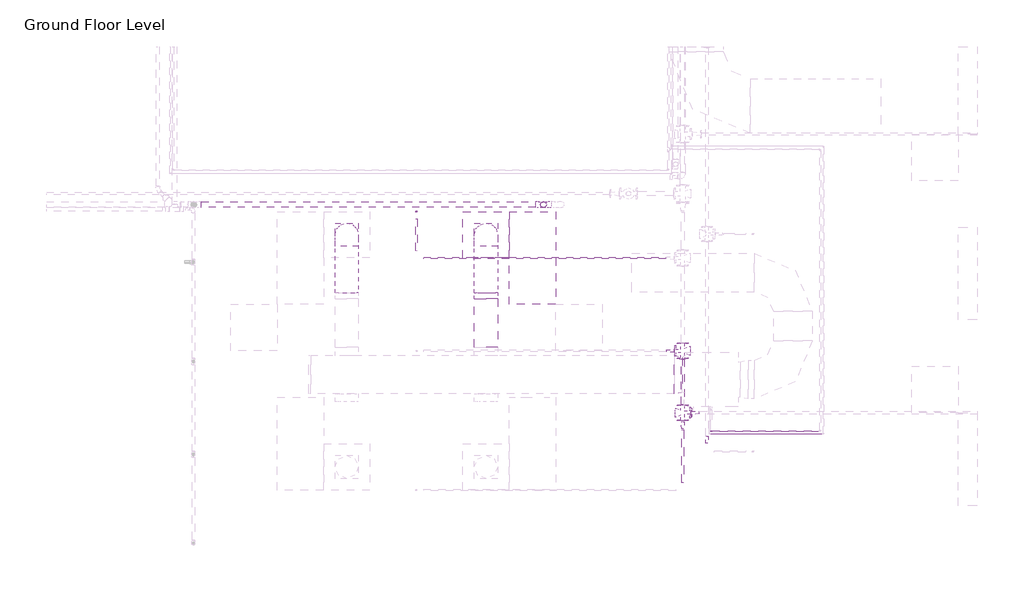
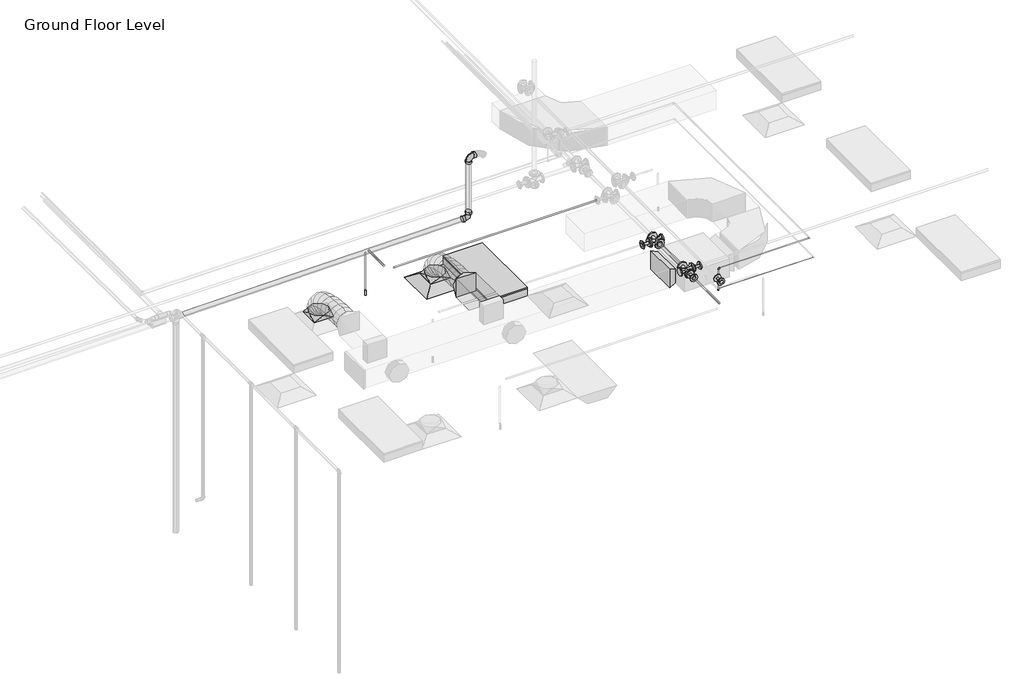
# One storey, part 14 of 68: 10 pipe fittings, 10 pipe segments, 4 duct fittings, 3 duct segments, 1 air terminal, 1 fire suppression terminal, 1 light fixture.
"""IFC4 building model written with IfcOpenShell, lengths in millimetres."""

from ifc_helpers import new_model, si_unit, point, frame, frame_2d, origin, place, context, project, spatial, polyline, circle_curve, ellipse_curve, trimmed, segment, composite_curve, outline, extrude, transform, mapped, element, save
from ifc_brep_helpers import plane_surface, cylinder_surface, advanced_brep
from components import m_return_diffuser_600_x_600_face_300_x_300_connection_ff221211, m_rectangular_transition_angle_45_degree_2b595dfe, m_rectangular_to_round_transition_angle_45_degree_641efff0, m_sprinkler_dry_pendent_hosted_15_mm_dry_pendent_9bda8e11, m_troffer_light_parabolic_rectangular1_0600x1200mm_4_lamp_86473d4a, m_bend_pvc_sch_40_dwv_standard_0eeb11e1, m_bend_pvc_sch_40_dwv_standard_cec44c9e, m_elbow_generic_standard_a088f956, m_reducer_flanged_cs_class_150_standard_b6b67c23, m_reducer_flanged_cs_class_150_standard_ccf252ad, m_reducer_flanged_cs_class_150_standard_cc2a7c1d, m_reducer_flanged_cs_class_150_standard_678fb8eb, m_tee_round_base_flanged_cs_class_150_standard_9c9133d0

model = new_model("IFC4")

# Units and contexts
model_context = context("Model", 3, world=origin())
ifc_project = project(units=[si_unit("LENGTHUNIT", "METRE", prefix="MILLI")], contexts=[model_context])

# Site, building, storey
site = spatial("IfcSite", under=ifc_project)
building = spatial("IfcBuilding", under=site)
storey = spatial("IfcBuildingStorey", under=building, Name="Ground Floor Level", Elevation=900.0)

# Air terminal
placement = place(None, origin())
m_return_diffuser_600_x_600_face_300_x_300_connection_shape = m_return_diffuser_600_x_600_face_300_x_300_connection_ff221211(model_context)
element("IfcAirTerminal", 1, ObjectType="M_Supply Diffuser : 600 x 600 Face 300 x 300 Connection", at=placement, inside=storey, context=model_context, shape_type="MappedRepresentation", body=[
    mapped(m_return_diffuser_600_x_600_face_300_x_300_connection_shape, transform((3142.7672394, -36564.7846466, 3650.0), x_axis=(1.0, 0.0, 0.0), y_axis=(0.0, 1.0, 0.0), z_axis=(0.0, 0.0, 1.0))),
])

# Duct fittings
m_rectangular_transition_angle_45_degree_shape = m_rectangular_transition_angle_45_degree_2b595dfe(model_context)
element("IfcDuctFitting", 2, ObjectType="M_Rectangular Transition - Angle : 45 Degree", at=placement, inside=storey, context=model_context, shape_type="MappedRepresentation", body=[
    mapped(m_rectangular_transition_angle_45_degree_shape, transform((5677.3672394, -38372.6128682, 4100.0), x_axis=(-1.0, 0.0, 0.0), y_axis=(0.0, -1.0, 0.0), z_axis=(0.0, 0.0, 1.0))),
])
m_rectangular_to_round_transition_angle_45_degree_shape = m_rectangular_to_round_transition_angle_45_degree_641efff0(model_context)
element("IfcDuctFitting", 3, ObjectType="M_Rectangular to Round Transition - Angle : 45 Degree", at=placement, inside=storey, context=model_context, shape_type="MappedRepresentation", body=[
    mapped(m_rectangular_to_round_transition_angle_45_degree_shape, transform((3142.7672394, -36564.7846466, 3751.6), x_axis=(0.0, 0.0, 1.0), y_axis=(-1.0, 0.0, 0.0), z_axis=(0.0, -1.0, 0.0))),
])
element("IfcDuctFitting", 4, ObjectType="M_Rectangular to Round Transition - Angle : 45 Degree", at=placement, inside=storey, context=model_context, shape_type="MappedRepresentation", body=[
    mapped(m_rectangular_to_round_transition_angle_45_degree_shape, transform((3142.7672394, -37392.1205779, 4100.0), x_axis=(0.0, 1.0, 0.0), y_axis=(-1.0, 0.0, 0.0), z_axis=(0.0, 0.0, 1.0))),
])
element("IfcDuctFitting", 5, ObjectType="M_Rectangular to Round Transition - Angle : 45 Degree", at=placement, inside=storey, context=model_context, shape_type="MappedRepresentation", body=[
    mapped(m_rectangular_to_round_transition_angle_45_degree_shape, transform((1342.7672394, -36564.7846466, 3751.6), x_axis=(0.0, 0.0, 1.0), y_axis=(-1.0, 0.0, 0.0), z_axis=(0.0, -1.0, 0.0))),
])

# Duct segments
element("IfcDuctSegment", 6, ObjectType="Flex - Round", at=placement, inside=storey, context=model_context, shape_type="AdvancedBrep", body=[
    advanced_brep(
    [(3292.7672394, -36564.7846466, 3826.6), (3142.7672394, -36714.7846466, 3826.6), (2992.7672394, -36564.7846466, 3826.6), (3142.7672394, -36414.7846466, 3826.6), (3292.7672394, -36564.7846466, 3857.9377114), (3142.7672394, -36714.7846466, 3832.2944892), (2992.7672394, -36564.7846466, 3857.9377114), (3142.7672394, -36414.7846466, 3883.5809337), (3292.7672394, -36581.8005792, 3906.2505728), (3142.7672394, -36715.5385581, 3834.435049), (2992.7672394, -36581.8005792, 3906.2505728), (3142.7672394, -36448.0626002, 3978.0660967), (3292.7672394, -36628.9844595, 3968.7113131), (3142.7672394, -36733.1903588, 3857.8020236), (2992.7672394, -36628.9844595, 3968.7113131), (3142.7672394, -36524.7785603, 4079.6206026), (3292.7672394, -36700.5404117, 4016.0700639), (3142.7672394, -36769.4744673, 3881.8163788), (2992.7672394, -36700.5404117, 4016.0700639), (3142.7672394, -36631.6063561, 4150.3237489), (3292.7672394, -36790.6725597, 4050.4146682), (3142.7672394, -36834.2333229, 3906.4925606), (2992.7672394, -36790.6725597, 4050.4146682), (3142.7672394, -36747.1117965, 4194.3367758), (3292.7672394, -36893.5850275, 4073.8329691), (3142.7672394, -36920.1459515, 3926.0424542), (2992.7672394, -36893.5850275, 4073.8329691), (3142.7672394, -36867.0241035, 4221.6234841), (3292.7672394, -37003.4819393, 4088.4128097), (3142.7672394, -37018.6328416, 3939.1085462), (2992.7672394, -37003.4819393, 4088.4128097), (3142.7672394, -36988.3310369, 4237.7170733), (3292.7672394, -37114.5674189, 4096.242033), (3142.7672394, -37122.0727471, 3946.398915), (2992.7672394, -37114.5674189, 4096.242033), (3142.7672394, -37107.0620907, 4246.085151), (3292.7672394, -37221.0455904, 4099.4084821), (3142.7672394, -37223.7370835, 3949.4222102), (2992.7672394, -37221.0455904, 4099.4084821), (3142.7672394, -37218.3540973, 4249.394754), (3292.7672394, -37317.1205779, 4100.0), (3142.7672394, -37316.1970701, 4249.9971571), (2992.7672394, -37317.1205779, 4100.0), (3142.7672394, -37318.0440857, 3950.0028429)],
    [
        (0, 1, circle_curve(frame((3142.7672394, -36564.7846466, 3826.6), z_axis=(0.0, 0.0, -1.0), x_axis=(1.0, 0.0, 0.0)), 150.0)),
        (1, 2, circle_curve(frame((3142.7672394, -36564.7846466, 3826.6), z_axis=(0.0, 0.0, -1.0), x_axis=(1.0, 0.0, 0.0)), 150.0)),
        (2, 3, circle_curve(frame((3142.7672394, -36564.7846466, 3826.6), z_axis=(0.0, 0.0, -1.0), x_axis=(1.0, 0.0, 0.0)), 150.0)),
        (3, 0, circle_curve(frame((3142.7672394, -36564.7846466, 3826.6), z_axis=(0.0, 0.0, -1.0), x_axis=(1.0, 0.0, 0.0)), 150.0)),
        (0, 4),
        (4, 5, ellipse_curve(frame((3142.7672394, -36564.7846466, 3857.9377114), z_axis=(0.0, 0.16851014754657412, -0.9856999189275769), x_axis=(0.0, -0.9856999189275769, -0.16851014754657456)), 152.176131, 150.0)),
        (5, 1),
        (5, 6, ellipse_curve(frame((3142.7672394, -36564.7846466, 3857.9377114), z_axis=(0.0, 0.16851014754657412, -0.9856999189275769), x_axis=(0.0, -0.9856999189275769, -0.16851014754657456)), 152.176131, 150.0)),
        (6, 2),
        (6, 7, ellipse_curve(frame((3142.7672394, -36564.7846466, 3857.9377114), z_axis=(0.0, 0.16851014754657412, -0.9856999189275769), x_axis=(0.0, -0.9856999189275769, -0.16851014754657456)), 152.176131, 150.0)),
        (7, 3),
        (7, 4, ellipse_curve(frame((3142.7672394, -36564.7846466, 3857.9377114), z_axis=(0.0, 0.16851014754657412, -0.9856999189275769), x_axis=(0.0, -0.9856999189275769, -0.16851014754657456)), 152.176131, 150.0)),
        (4, 8),
        (8, 9, ellipse_curve(frame((3142.7672394, -36581.8005792, 3906.2505728), z_axis=(0.0, 0.47309225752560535, -0.881012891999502), x_axis=(0.0, -0.8810128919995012, -0.473092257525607)), 151.8002519, 150.0)),
        (9, 5),
        (9, 10, ellipse_curve(frame((3142.7672394, -36581.8005792, 3906.2505728), z_axis=(0.0, 0.47309225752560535, -0.881012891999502), x_axis=(0.0, -0.8810128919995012, -0.473092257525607)), 151.8002519, 150.0)),
        (10, 6),
        (10, 11, ellipse_curve(frame((3142.7672394, -36581.8005792, 3906.2505728), z_axis=(0.0, 0.47309225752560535, -0.881012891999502), x_axis=(0.0, -0.8810128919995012, -0.473092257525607)), 151.8002519, 150.0)),
        (11, 7),
        (11, 8, ellipse_curve(frame((3142.7672394, -36581.8005792, 3906.2505728), z_axis=(0.0, 0.47309225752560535, -0.881012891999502), x_axis=(0.0, -0.8810128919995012, -0.473092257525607)), 151.8002519, 150.0)),
        (8, 12),
        (12, 13, ellipse_curve(frame((3142.7672394, -36628.9844595, 3968.7113131), z_axis=(0.0, 0.7287877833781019, -0.6847396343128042), x_axis=(0.0, -0.6847396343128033, -0.7287877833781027)), 152.1832446, 150.0)),
        (13, 9),
        (13, 14, ellipse_curve(frame((3142.7672394, -36628.9844595, 3968.7113131), z_axis=(0.0, 0.7287877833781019, -0.6847396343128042), x_axis=(0.0, -0.6847396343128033, -0.7287877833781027)), 152.1832446, 150.0)),
        (14, 10),
        (14, 15, ellipse_curve(frame((3142.7672394, -36628.9844595, 3968.7113131), z_axis=(0.0, 0.7287877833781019, -0.6847396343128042), x_axis=(0.0, -0.6847396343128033, -0.7287877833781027)), 152.1832446, 150.0)),
        (15, 11),
        (15, 12, ellipse_curve(frame((3142.7672394, -36628.9844595, 3968.7113131), z_axis=(0.0, 0.7287877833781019, -0.6847396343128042), x_axis=(0.0, -0.6847396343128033, -0.7287877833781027)), 152.1832446, 150.0)),
        (12, 16),
        (16, 17, ellipse_curve(frame((3142.7672394, -36700.5404117, 4016.0700639), z_axis=(0.0, 0.8895859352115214, -0.45676784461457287), x_axis=(0.0, -0.4567678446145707, -0.8895859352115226)), 150.91705, 150.0)),
        (17, 13),
        (17, 18, ellipse_curve(frame((3142.7672394, -36700.5404117, 4016.0700639), z_axis=(0.0, 0.8895859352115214, -0.45676784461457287), x_axis=(0.0, -0.4567678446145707, -0.8895859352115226)), 150.91705, 150.0)),
        (18, 14),
        (18, 19, ellipse_curve(frame((3142.7672394, -36700.5404117, 4016.0700639), z_axis=(0.0, 0.8895859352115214, -0.45676784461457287), x_axis=(0.0, -0.4567678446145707, -0.8895859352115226)), 150.91705, 150.0)),
        (19, 15),
        (19, 16, ellipse_curve(frame((3142.7672394, -36700.5404117, 4016.0700639), z_axis=(0.0, 0.8895859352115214, -0.45676784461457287), x_axis=(0.0, -0.4567678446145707, -0.8895859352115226)), 150.91705, 150.0)),
        (16, 20),
        (20, 21, ellipse_curve(frame((3142.7672394, -36790.6725597, 4050.4146682), z_axis=(0.0, 0.9571203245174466, -0.28969067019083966), x_axis=(0.0, -0.2896906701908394, -0.9571203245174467)), 150.369921, 150.0)),
        (21, 17),
        (21, 22, ellipse_curve(frame((3142.7672394, -36790.6725597, 4050.4146682), z_axis=(0.0, 0.9571203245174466, -0.28969067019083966), x_axis=(0.0, -0.2896906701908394, -0.9571203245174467)), 150.369921, 150.0)),
        (22, 18),
        (22, 23, ellipse_curve(frame((3142.7672394, -36790.6725597, 4050.4146682), z_axis=(0.0, 0.9571203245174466, -0.28969067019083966), x_axis=(0.0, -0.2896906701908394, -0.9571203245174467)), 150.369921, 150.0)),
        (23, 19),
        (23, 20, ellipse_curve(frame((3142.7672394, -36790.6725597, 4050.4146682), z_axis=(0.0, 0.9571203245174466, -0.28969067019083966), x_axis=(0.0, -0.2896906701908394, -0.9571203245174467)), 150.369921, 150.0)),
        (20, 24),
        (24, 25, ellipse_curve(frame((3142.7672394, -36893.5850275, 4073.8329691), z_axis=(0.0, 0.9842313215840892, -0.17688613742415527), x_axis=(0.0, -0.17688613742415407, -0.9842313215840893)), 150.1583131, 150.0)),
        (25, 21),
        (25, 26, ellipse_curve(frame((3142.7672394, -36893.5850275, 4073.8329691), z_axis=(0.0, 0.9842313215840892, -0.17688613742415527), x_axis=(0.0, -0.17688613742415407, -0.9842313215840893)), 150.1583131, 150.0)),
        (26, 22),
        (26, 27, ellipse_curve(frame((3142.7672394, -36893.5850275, 4073.8329691), z_axis=(0.0, 0.9842313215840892, -0.17688613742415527), x_axis=(0.0, -0.17688613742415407, -0.9842313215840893)), 150.1583131, 150.0)),
        (27, 23),
        (27, 24, ellipse_curve(frame((3142.7672394, -36893.5850275, 4073.8329691), z_axis=(0.0, 0.9842313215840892, -0.17688613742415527), x_axis=(0.0, -0.17688613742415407, -0.9842313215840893)), 150.1583131, 150.0)),
        (24, 28),
        (28, 29, ellipse_curve(frame((3142.7672394, -37003.4819393, 4088.4128097), z_axis=(0.0, 0.9948906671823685, -0.10095821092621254), x_axis=(0.0, -0.10095821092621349, -0.9948906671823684)), 150.0710264, 150.0)),
        (29, 25),
        (29, 30, ellipse_curve(frame((3142.7672394, -37003.4819393, 4088.4128097), z_axis=(0.0, 0.9948906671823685, -0.10095821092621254), x_axis=(0.0, -0.10095821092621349, -0.9948906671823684)), 150.0710264, 150.0)),
        (30, 26),
        (30, 31, ellipse_curve(frame((3142.7672394, -37003.4819393, 4088.4128097), z_axis=(0.0, 0.9948906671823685, -0.10095821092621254), x_axis=(0.0, -0.10095821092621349, -0.9948906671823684)), 150.0710264, 150.0)),
        (31, 27),
        (31, 28, ellipse_curve(frame((3142.7672394, -37003.4819393, 4088.4128097), z_axis=(0.0, 0.9948906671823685, -0.10095821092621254), x_axis=(0.0, -0.10095821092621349, -0.9948906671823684)), 150.0710264, 150.0)),
        (28, 32),
        (32, 33, ellipse_curve(frame((3142.7672394, -37114.5674189, 4096.242033), z_axis=(0.0, 0.9987479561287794, -0.05002519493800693), x_axis=(0.0, -0.05002519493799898, -0.99874795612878)), 150.0309634, 150.0)),
        (33, 29),
        (33, 34, ellipse_curve(frame((3142.7672394, -37114.5674189, 4096.242033), z_axis=(0.0, 0.9987479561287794, -0.05002519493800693), x_axis=(0.0, -0.05002519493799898, -0.99874795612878)), 150.0309634, 150.0)),
        (34, 30),
        (34, 35, ellipse_curve(frame((3142.7672394, -37114.5674189, 4096.242033), z_axis=(0.0, 0.9987479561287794, -0.05002519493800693), x_axis=(0.0, -0.05002519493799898, -0.99874795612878)), 150.0309634, 150.0)),
        (35, 31),
        (35, 32, ellipse_curve(frame((3142.7672394, -37114.5674189, 4096.242033), z_axis=(0.0, 0.9987479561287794, -0.05002519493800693), x_axis=(0.0, -0.05002519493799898, -0.99874795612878)), 150.0309634, 150.0)),
        (32, 36),
        (36, 37, ellipse_curve(frame((3142.7672394, -37221.0455904, 4099.4084821), z_axis=(0.0, 0.999839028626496, -0.01794204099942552), x_axis=(0.0, -0.01794204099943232, -0.9998390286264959)), 150.0104193, 150.0)),
        (37, 33),
        (37, 38, ellipse_curve(frame((3142.7672394, -37221.0455904, 4099.4084821), z_axis=(0.0, 0.999839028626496, -0.01794204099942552), x_axis=(0.0, -0.01794204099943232, -0.9998390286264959)), 150.0104193, 150.0)),
        (38, 34),
        (38, 39, ellipse_curve(frame((3142.7672394, -37221.0455904, 4099.4084821), z_axis=(0.0, 0.999839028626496, -0.01794204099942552), x_axis=(0.0, -0.01794204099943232, -0.9998390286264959)), 150.0104193, 150.0)),
        (39, 35),
        (39, 36, ellipse_curve(frame((3142.7672394, -37221.0455904, 4099.4084821), z_axis=(0.0, 0.999839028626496, -0.01794204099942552), x_axis=(0.0, -0.01794204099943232, -0.9998390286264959)), 150.0104193, 150.0)),
        (40, 41, circle_curve(frame((3142.7672394, -37317.1205779, 4100.0), z_axis=(0.0, -0.9999810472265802, 0.006156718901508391), x_axis=(1.0, 0.0, 0.0)), 150.0)),
        (41, 42, circle_curve(frame((3142.7672394, -37317.1205779, 4100.0), z_axis=(0.0, -0.9999810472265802, 0.006156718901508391), x_axis=(1.0, 0.0, 0.0)), 150.0)),
        (42, 43, circle_curve(frame((3142.7672394, -37317.1205779, 4100.0), z_axis=(0.0, -0.9999810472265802, 0.006156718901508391), x_axis=(1.0, 0.0, 0.0)), 150.0)),
        (43, 40, circle_curve(frame((3142.7672394, -37317.1205779, 4100.0), z_axis=(0.0, -0.9999810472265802, 0.006156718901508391), x_axis=(1.0, 0.0, 0.0)), 150.0)),
        (36, 40),
        (43, 37),
        (42, 38),
        (41, 39),
    ],
    [
        plane_surface(frame((3142.7672394, -36714.7846466, 3826.6), z_axis=(0.0, 0.0, -1.0), x_axis=(1.0, 0.0, 0.0))),
        cylinder_surface(frame((3142.7672394, -36564.7846466, 3826.6), z_axis=(0.0, 0.0, -1.0), x_axis=(1.0, 0.0, 0.0)), 150.0),
        cylinder_surface(frame((3142.7672394, -36564.7846466, 3857.9377114), z_axis=(0.0, 0.3322008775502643, -0.9432086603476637), x_axis=(1.0, 0.0, 0.0)), 150.0),
        cylinder_surface(frame((3142.7672394, -36581.8005792, 3906.2505728), z_axis=(0.0, 0.6027625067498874, -0.7979206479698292), x_axis=(1.0, 0.0, 0.0)), 150.0),
        cylinder_surface(frame((3142.7672394, -36628.9844595, 3968.7113131), z_axis=(0.0, 0.8339024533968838, -0.5519118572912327), x_axis=(1.0, 0.0, 0.0)), 150.0),
        cylinder_surface(frame((3142.7672394, -36700.5404117, 4016.0700639), z_axis=(0.0, 0.9344582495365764, -0.3560727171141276), x_axis=(1.0, 0.0, 0.0)), 150.0),
        cylinder_surface(frame((3142.7672394, -36790.6725597, 4050.4146682), z_axis=(0.0, 0.9750732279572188, -0.22188330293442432), x_axis=(1.0, 0.0, 0.0)), 150.0),
        cylinder_surface(frame((3142.7672394, -36893.5850275, 4073.8329691), z_axis=(0.0, 0.991314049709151, -0.13151598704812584), x_axis=(1.0, 0.0, 0.0)), 150.0),
        cylinder_surface(frame((3142.7672394, -37003.4819393, 4088.4128097), z_axis=(0.0, 0.9975255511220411, -0.07030487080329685), x_axis=(1.0, 0.0, 0.0)), 150.0),
        cylinder_surface(frame((3142.7672394, -37114.5674189, 4096.242033), z_axis=(0.0, 0.9995581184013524, -0.029724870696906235), x_axis=(1.0, 0.0, 0.0)), 150.0),
        plane_surface(frame((3142.7672394, -37318.0440857, 3950.0028429), z_axis=(0.0, -0.9999810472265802, 0.006156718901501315), x_axis=(1.0, 0.0, 0.0))),
        cylinder_surface(frame((3142.7672394, -37221.0455904, 4099.4084821), z_axis=(0.0, 0.9999810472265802, -0.006156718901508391), x_axis=(1.0, 0.0, 0.0)), 150.0),
    ],
    [
        (0, [[1, 2, 3, 4]]),
        (1, [[-1, 5, 6, 7]]),
        (1, [[-2, -7, 8, 9]]),
        (1, [[-3, -9, 10, 11]]),
        (1, [[-4, -11, 12, -5]]),
        (2, [[-6, 13, 14, 15]]),
        (2, [[-8, -15, 16, 17]]),
        (2, [[-10, -17, 18, 19]]),
        (2, [[-12, -19, 20, -13]]),
        (3, [[-14, 21, 22, 23]]),
        (3, [[-16, -23, 24, 25]]),
        (3, [[-18, -25, 26, 27]]),
        (3, [[-20, -27, 28, -21]]),
        (4, [[-22, 29, 30, 31]]),
        (4, [[-24, -31, 32, 33]]),
        (4, [[-26, -33, 34, 35]]),
        (4, [[-28, -35, 36, -29]]),
        (5, [[-30, 37, 38, 39]]),
        (5, [[-32, -39, 40, 41]]),
        (5, [[-34, -41, 42, 43]]),
        (5, [[-36, -43, 44, -37]]),
        (6, [[-38, 45, 46, 47]]),
        (6, [[-40, -47, 48, 49]]),
        (6, [[-42, -49, 50, 51]]),
        (6, [[-44, -51, 52, -45]]),
        (7, [[-46, 53, 54, 55]]),
        (7, [[-48, -55, 56, 57]]),
        (7, [[-50, -57, 58, 59]]),
        (7, [[-52, -59, 60, -53]]),
        (8, [[-54, 61, 62, 63]]),
        (8, [[-56, -63, 64, 65]]),
        (8, [[-58, -65, 66, 67]]),
        (8, [[-60, -67, 68, -61]]),
        (9, [[-62, 69, 70, 71]]),
        (9, [[-64, -71, 72, 73]]),
        (9, [[-66, -73, 74, 75]]),
        (9, [[-68, -75, 76, -69]]),
        (10, [[77, 78, 79, 80]]),
        (11, [[-70, 81, -80, 82]]),
        (11, [[-72, -82, -79, 83]]),
        (11, [[-74, -83, -78, 84]]),
        (11, [[-76, -84, -77, -81]]),
    ],
),
])
element("IfcDuctSegment", 7, ObjectType="Flex - Round", at=placement, inside=storey, context=model_context, shape_type="AdvancedBrep", body=[
    advanced_brep(
    [(1492.7672394, -36564.7846466, 3826.6), (1342.7672394, -36714.7846466, 3826.6), (1192.7672394, -36564.7846466, 3826.6), (1342.7672394, -36414.7846466, 3826.6), (1492.7672394, -36564.7846466, 3857.9377114), (1342.7672394, -36714.7846466, 3832.2944892), (1192.7672394, -36564.7846466, 3857.9377114), (1342.7672394, -36414.7846466, 3883.5809337), (1492.7672394, -36581.8005792, 3906.2505728), (1342.7672394, -36715.5385581, 3834.435049), (1192.7672394, -36581.8005792, 3906.2505728), (1342.7672394, -36448.0626002, 3978.0660967), (1492.7672394, -36628.9844595, 3968.7113131), (1342.7672394, -36733.1903588, 3857.8020236), (1192.7672394, -36628.9844595, 3968.7113131), (1342.7672394, -36524.7785603, 4079.6206026), (1492.7672394, -36700.5404117, 4016.0700639), (1342.7672394, -36769.4744673, 3881.8163788), (1192.7672394, -36700.5404117, 4016.0700639), (1342.7672394, -36631.6063561, 4150.3237489), (1492.7672394, -36790.6725597, 4050.4146682), (1342.7672394, -36834.2333229, 3906.4925606), (1192.7672394, -36790.6725597, 4050.4146682), (1342.7672394, -36747.1117965, 4194.3367758), (1492.7672394, -36893.5850275, 4073.8329691), (1342.7672394, -36920.1459515, 3926.0424542), (1192.7672394, -36893.5850275, 4073.8329691), (1342.7672394, -36867.0241035, 4221.6234841), (1492.7672394, -37003.4819393, 4088.4128097), (1342.7672394, -37018.6328416, 3939.1085462), (1192.7672394, -37003.4819393, 4088.4128097), (1342.7672394, -36988.3310369, 4237.7170733), (1492.7672394, -37114.5674189, 4096.242033), (1342.7672394, -37122.0727471, 3946.398915), (1192.7672394, -37114.5674189, 4096.242033), (1342.7672394, -37107.0620907, 4246.085151), (1492.7672394, -37221.0455904, 4099.4084821), (1342.7672394, -37223.7370835, 3949.4222102), (1192.7672394, -37221.0455904, 4099.4084821), (1342.7672394, -37218.3540973, 4249.394754), (1492.7672394, -37317.1205779, 4100.0), (1342.7672394, -37316.1970701, 4249.9971571), (1192.7672394, -37317.1205779, 4100.0), (1342.7672394, -37318.0440857, 3950.0028429)],
    [
        (0, 1, circle_curve(frame((1342.7672394, -36564.7846466, 3826.6), z_axis=(0.0, 0.0, -1.0), x_axis=(1.0, 0.0, 0.0)), 150.0)),
        (1, 2, circle_curve(frame((1342.7672394, -36564.7846466, 3826.6), z_axis=(0.0, 0.0, -1.0), x_axis=(1.0, 0.0, 0.0)), 150.0)),
        (2, 3, circle_curve(frame((1342.7672394, -36564.7846466, 3826.6), z_axis=(0.0, 0.0, -1.0), x_axis=(1.0, 0.0, 0.0)), 150.0)),
        (3, 0, circle_curve(frame((1342.7672394, -36564.7846466, 3826.6), z_axis=(0.0, 0.0, -1.0), x_axis=(1.0, 0.0, 0.0)), 150.0)),
        (0, 4),
        (4, 5, ellipse_curve(frame((1342.7672394, -36564.7846466, 3857.9377114), z_axis=(0.0, 0.16851014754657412, -0.9856999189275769), x_axis=(0.0, -0.9856999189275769, -0.16851014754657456)), 152.176131, 150.0)),
        (5, 1),
        (5, 6, ellipse_curve(frame((1342.7672394, -36564.7846466, 3857.9377114), z_axis=(0.0, 0.16851014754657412, -0.9856999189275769), x_axis=(0.0, -0.9856999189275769, -0.16851014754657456)), 152.176131, 150.0)),
        (6, 2),
        (6, 7, ellipse_curve(frame((1342.7672394, -36564.7846466, 3857.9377114), z_axis=(0.0, 0.16851014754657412, -0.9856999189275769), x_axis=(0.0, -0.9856999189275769, -0.16851014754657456)), 152.176131, 150.0)),
        (7, 3),
        (7, 4, ellipse_curve(frame((1342.7672394, -36564.7846466, 3857.9377114), z_axis=(0.0, 0.16851014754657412, -0.9856999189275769), x_axis=(0.0, -0.9856999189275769, -0.16851014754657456)), 152.176131, 150.0)),
        (4, 8),
        (8, 9, ellipse_curve(frame((1342.7672394, -36581.8005792, 3906.2505728), z_axis=(0.0, 0.47309225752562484, -0.8810128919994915), x_axis=(0.0, -0.8810128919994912, -0.4730922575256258)), 151.8002519, 150.0)),
        (9, 5),
        (9, 10, ellipse_curve(frame((1342.7672394, -36581.8005792, 3906.2505728), z_axis=(0.0, 0.47309225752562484, -0.8810128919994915), x_axis=(0.0, -0.8810128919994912, -0.4730922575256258)), 151.8002519, 150.0)),
        (10, 6),
        (10, 11, ellipse_curve(frame((1342.7672394, -36581.8005792, 3906.2505728), z_axis=(0.0, 0.47309225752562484, -0.8810128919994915), x_axis=(0.0, -0.8810128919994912, -0.4730922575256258)), 151.8002519, 150.0)),
        (11, 7),
        (11, 8, ellipse_curve(frame((1342.7672394, -36581.8005792, 3906.2505728), z_axis=(0.0, 0.47309225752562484, -0.8810128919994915), x_axis=(0.0, -0.8810128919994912, -0.4730922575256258)), 151.8002519, 150.0)),
        (8, 12),
        (12, 13, ellipse_curve(frame((1342.7672394, -36628.9844595, 3968.7113131), z_axis=(0.0, 0.7287877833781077, -0.6847396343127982), x_axis=(0.0, -0.6847396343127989, -0.7287877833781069)), 152.1832446, 150.0)),
        (13, 9),
        (13, 14, ellipse_curve(frame((1342.7672394, -36628.9844595, 3968.7113131), z_axis=(0.0, 0.7287877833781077, -0.6847396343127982), x_axis=(0.0, -0.6847396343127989, -0.7287877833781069)), 152.1832446, 150.0)),
        (14, 10),
        (14, 15, ellipse_curve(frame((1342.7672394, -36628.9844595, 3968.7113131), z_axis=(0.0, 0.7287877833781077, -0.6847396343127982), x_axis=(0.0, -0.6847396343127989, -0.7287877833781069)), 152.1832446, 150.0)),
        (15, 11),
        (15, 12, ellipse_curve(frame((1342.7672394, -36628.9844595, 3968.7113131), z_axis=(0.0, 0.7287877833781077, -0.6847396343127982), x_axis=(0.0, -0.6847396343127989, -0.7287877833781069)), 152.1832446, 150.0)),
        (12, 16),
        (16, 17, ellipse_curve(frame((1342.7672394, -36700.5404117, 4016.0700639), z_axis=(0.0, 0.8895859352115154, -0.45676784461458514), x_axis=(0.0, -0.45676784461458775, -0.8895859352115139)), 150.91705, 150.0)),
        (17, 13),
        (17, 18, ellipse_curve(frame((1342.7672394, -36700.5404117, 4016.0700639), z_axis=(0.0, 0.8895859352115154, -0.45676784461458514), x_axis=(0.0, -0.45676784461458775, -0.8895859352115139)), 150.91705, 150.0)),
        (18, 14),
        (18, 19, ellipse_curve(frame((1342.7672394, -36700.5404117, 4016.0700639), z_axis=(0.0, 0.8895859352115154, -0.45676784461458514), x_axis=(0.0, -0.45676784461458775, -0.8895859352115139)), 150.91705, 150.0)),
        (19, 15),
        (19, 16, ellipse_curve(frame((1342.7672394, -36700.5404117, 4016.0700639), z_axis=(0.0, 0.8895859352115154, -0.45676784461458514), x_axis=(0.0, -0.45676784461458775, -0.8895859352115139)), 150.91705, 150.0)),
        (16, 20),
        (20, 21, ellipse_curve(frame((1342.7672394, -36790.6725597, 4050.4146682), z_axis=(0.0, 0.957120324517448, -0.28969067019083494), x_axis=(0.0, -0.28969067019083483, -0.9571203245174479)), 150.369921, 150.0)),
        (21, 17),
        (21, 22, ellipse_curve(frame((1342.7672394, -36790.6725597, 4050.4146682), z_axis=(0.0, 0.957120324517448, -0.28969067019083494), x_axis=(0.0, -0.28969067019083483, -0.9571203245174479)), 150.369921, 150.0)),
        (22, 18),
        (22, 23, ellipse_curve(frame((1342.7672394, -36790.6725597, 4050.4146682), z_axis=(0.0, 0.957120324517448, -0.28969067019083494), x_axis=(0.0, -0.28969067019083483, -0.9571203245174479)), 150.369921, 150.0)),
        (23, 19),
        (23, 20, ellipse_curve(frame((1342.7672394, -36790.6725597, 4050.4146682), z_axis=(0.0, 0.957120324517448, -0.28969067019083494), x_axis=(0.0, -0.28969067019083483, -0.9571203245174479)), 150.369921, 150.0)),
        (20, 24),
        (24, 25, ellipse_curve(frame((1342.7672394, -36893.5850275, 4073.8329691), z_axis=(0.0, 0.9842313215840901, -0.17688613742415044), x_axis=(0.0, -0.1768861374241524, -0.9842313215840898)), 150.1583131, 150.0)),
        (25, 21),
        (25, 26, ellipse_curve(frame((1342.7672394, -36893.5850275, 4073.8329691), z_axis=(0.0, 0.9842313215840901, -0.17688613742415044), x_axis=(0.0, -0.1768861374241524, -0.9842313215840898)), 150.1583131, 150.0)),
        (26, 22),
        (26, 27, ellipse_curve(frame((1342.7672394, -36893.5850275, 4073.8329691), z_axis=(0.0, 0.9842313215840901, -0.17688613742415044), x_axis=(0.0, -0.1768861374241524, -0.9842313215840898)), 150.1583131, 150.0)),
        (27, 23),
        (27, 24, ellipse_curve(frame((1342.7672394, -36893.5850275, 4073.8329691), z_axis=(0.0, 0.9842313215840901, -0.17688613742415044), x_axis=(0.0, -0.1768861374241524, -0.9842313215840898)), 150.1583131, 150.0)),
        (24, 28),
        (28, 29, ellipse_curve(frame((1342.7672394, -37003.4819393, 4088.4128097), z_axis=(0.0, 0.9948906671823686, -0.10095821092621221), x_axis=(0.0, -0.10095821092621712, -0.9948906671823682)), 150.0710264, 150.0)),
        (29, 25),
        (29, 30, ellipse_curve(frame((1342.7672394, -37003.4819393, 4088.4128097), z_axis=(0.0, 0.9948906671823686, -0.10095821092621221), x_axis=(0.0, -0.10095821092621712, -0.9948906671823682)), 150.0710264, 150.0)),
        (30, 26),
        (30, 31, ellipse_curve(frame((1342.7672394, -37003.4819393, 4088.4128097), z_axis=(0.0, 0.9948906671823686, -0.10095821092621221), x_axis=(0.0, -0.10095821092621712, -0.9948906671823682)), 150.0710264, 150.0)),
        (31, 27),
        (31, 28, ellipse_curve(frame((1342.7672394, -37003.4819393, 4088.4128097), z_axis=(0.0, 0.9948906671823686, -0.10095821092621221), x_axis=(0.0, -0.10095821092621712, -0.9948906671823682)), 150.0710264, 150.0)),
        (28, 32),
        (32, 33, ellipse_curve(frame((1342.7672394, -37114.5674189, 4096.242033), z_axis=(0.0, 0.9987479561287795, -0.05002519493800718), x_axis=(0.0, -0.0500251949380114, -0.9987479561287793)), 150.0309634, 150.0)),
        (33, 29),
        (33, 34, ellipse_curve(frame((1342.7672394, -37114.5674189, 4096.242033), z_axis=(0.0, 0.9987479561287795, -0.05002519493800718), x_axis=(0.0, -0.0500251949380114, -0.9987479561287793)), 150.0309634, 150.0)),
        (34, 30),
        (34, 35, ellipse_curve(frame((1342.7672394, -37114.5674189, 4096.242033), z_axis=(0.0, 0.9987479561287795, -0.05002519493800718), x_axis=(0.0, -0.0500251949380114, -0.9987479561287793)), 150.0309634, 150.0)),
        (35, 31),
        (35, 32, ellipse_curve(frame((1342.7672394, -37114.5674189, 4096.242033), z_axis=(0.0, 0.9987479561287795, -0.05002519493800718), x_axis=(0.0, -0.0500251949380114, -0.9987479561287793)), 150.0309634, 150.0)),
        (32, 36),
        (36, 37, ellipse_curve(frame((1342.7672394, -37221.0455904, 4099.4084821), z_axis=(0.0, 0.9998390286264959, -0.017942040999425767), x_axis=(0.0, -0.017942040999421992, -0.999839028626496)), 150.0104193, 150.0)),
        (37, 33),
        (37, 38, ellipse_curve(frame((1342.7672394, -37221.0455904, 4099.4084821), z_axis=(0.0, 0.9998390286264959, -0.017942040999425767), x_axis=(0.0, -0.017942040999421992, -0.999839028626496)), 150.0104193, 150.0)),
        (38, 34),
        (38, 39, ellipse_curve(frame((1342.7672394, -37221.0455904, 4099.4084821), z_axis=(0.0, 0.9998390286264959, -0.017942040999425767), x_axis=(0.0, -0.017942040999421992, -0.999839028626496)), 150.0104193, 150.0)),
        (39, 35),
        (39, 36, ellipse_curve(frame((1342.7672394, -37221.0455904, 4099.4084821), z_axis=(0.0, 0.9998390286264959, -0.017942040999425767), x_axis=(0.0, -0.017942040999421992, -0.999839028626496)), 150.0104193, 150.0)),
        (40, 41, circle_curve(frame((1342.7672394, -37317.1205779, 4100.0), z_axis=(0.0, -0.9999810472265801, 0.006156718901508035), x_axis=(1.0, 0.0, 0.0)), 150.0)),
        (41, 42, circle_curve(frame((1342.7672394, -37317.1205779, 4100.0), z_axis=(0.0, -0.9999810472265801, 0.006156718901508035), x_axis=(1.0, 0.0, 0.0)), 150.0)),
        (42, 43, circle_curve(frame((1342.7672394, -37317.1205779, 4100.0), z_axis=(0.0, -0.9999810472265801, 0.006156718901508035), x_axis=(1.0, 0.0, 0.0)), 150.0)),
        (43, 40, circle_curve(frame((1342.7672394, -37317.1205779, 4100.0), z_axis=(0.0, -0.9999810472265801, 0.006156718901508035), x_axis=(1.0, 0.0, 0.0)), 150.0)),
        (36, 40),
        (43, 37),
        (42, 38),
        (41, 39),
    ],
    [
        plane_surface(frame((1342.7672394, -36714.7846466, 3826.6), z_axis=(0.0, 0.0, -1.0), x_axis=(1.0, 0.0, 0.0))),
        cylinder_surface(frame((1342.7672394, -36564.7846466, 3826.6), z_axis=(0.0, 0.0, -1.0), x_axis=(1.0, 0.0, 0.0)), 150.0),
        cylinder_surface(frame((1342.7672394, -36564.7846466, 3857.9377114), z_axis=(0.0, 0.3322008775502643, -0.9432086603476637), x_axis=(1.0, 0.0, 0.0)), 150.0),
        cylinder_surface(frame((1342.7672394, -36581.8005792, 3906.2505728), z_axis=(0.0, 0.6027625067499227, -0.7979206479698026), x_axis=(1.0, 0.0, 0.0)), 150.0),
        cylinder_surface(frame((1342.7672394, -36628.9844595, 3968.7113131), z_axis=(0.0, 0.8339024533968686, -0.5519118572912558), x_axis=(1.0, 0.0, 0.0)), 150.0),
        cylinder_surface(frame((1342.7672394, -36700.5404117, 4016.0700639), z_axis=(0.0, 0.9344582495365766, -0.35607271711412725), x_axis=(1.0, 0.0, 0.0)), 150.0),
        cylinder_surface(frame((1342.7672394, -36790.6725597, 4050.4146682), z_axis=(0.0, 0.975073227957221, -0.22188330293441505), x_axis=(1.0, 0.0, 0.0)), 150.0),
        cylinder_surface(frame((1342.7672394, -36893.5850275, 4073.8329691), z_axis=(0.0, 0.991314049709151, -0.13151598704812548), x_axis=(1.0, 0.0, 0.0)), 150.0),
        cylinder_surface(frame((1342.7672394, -37003.4819393, 4088.4128097), z_axis=(0.0, 0.9975255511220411, -0.07030487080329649), x_axis=(1.0, 0.0, 0.0)), 150.0),
        cylinder_surface(frame((1342.7672394, -37114.5674189, 4096.242033), z_axis=(0.0, 0.9995581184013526, -0.029724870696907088), x_axis=(1.0, 0.0, 0.0)), 150.0),
        plane_surface(frame((1342.7672394, -37318.0440857, 3950.0028429), z_axis=(0.0, -0.9999810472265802, 0.006156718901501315), x_axis=(1.0, 0.0, 0.0))),
        cylinder_surface(frame((1342.7672394, -37221.0455904, 4099.4084821), z_axis=(0.0, 0.9999810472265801, -0.006156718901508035), x_axis=(1.0, 0.0, 0.0)), 150.0),
    ],
    [
        (0, [[1, 2, 3, 4]]),
        (1, [[-1, 5, 6, 7]]),
        (1, [[-2, -7, 8, 9]]),
        (1, [[-3, -9, 10, 11]]),
        (1, [[-4, -11, 12, -5]]),
        (2, [[-6, 13, 14, 15]]),
        (2, [[-8, -15, 16, 17]]),
        (2, [[-10, -17, 18, 19]]),
        (2, [[-12, -19, 20, -13]]),
        (3, [[-14, 21, 22, 23]]),
        (3, [[-16, -23, 24, 25]]),
        (3, [[-18, -25, 26, 27]]),
        (3, [[-20, -27, 28, -21]]),
        (4, [[-22, 29, 30, 31]]),
        (4, [[-24, -31, 32, 33]]),
        (4, [[-26, -33, 34, 35]]),
        (4, [[-28, -35, 36, -29]]),
        (5, [[-30, 37, 38, 39]]),
        (5, [[-32, -39, 40, 41]]),
        (5, [[-34, -41, 42, 43]]),
        (5, [[-36, -43, 44, -37]]),
        (6, [[-38, 45, 46, 47]]),
        (6, [[-40, -47, 48, 49]]),
        (6, [[-42, -49, 50, 51]]),
        (6, [[-44, -51, 52, -45]]),
        (7, [[-46, 53, 54, 55]]),
        (7, [[-48, -55, 56, 57]]),
        (7, [[-50, -57, 58, 59]]),
        (7, [[-52, -59, 60, -53]]),
        (8, [[-54, 61, 62, 63]]),
        (8, [[-56, -63, 64, 65]]),
        (8, [[-58, -65, 66, 67]]),
        (8, [[-60, -67, 68, -61]]),
        (9, [[-62, 69, 70, 71]]),
        (9, [[-64, -71, 72, 73]]),
        (9, [[-66, -73, 74, 75]]),
        (9, [[-68, -75, 76, -69]]),
        (10, [[77, 78, 79, 80]]),
        (11, [[-70, 81, -80, 82]]),
        (11, [[-72, -82, -79, 83]]),
        (11, [[-74, -83, -78, 84]]),
        (11, [[-76, -84, -77, -81]]),
    ],
),
])
element("IfcDuctSegment", 8, ObjectType="Radius Elbows / Taps", at=placement, inside=storey, context=model_context, shape_type="SweptSolid", body=[
    extrude(outline(polyline([(3292.7672394, -38021.0128682), (2992.7672394, -38021.0128682), (2992.7672394, -37392.1205779), (3292.7672394, -37392.1205779), (3292.7672394, -38021.0128682)])), frame((0.0, 0.0, 3950.0), z_axis=(0.0, 0.0, 1.0), x_axis=(1.0, 0.0, 0.0)), (0.0, 0.0, 1.0), 300.0),
])

# Fire suppression terminal
m_sprinkler_dry_pendent_hosted_15_mm_dry_pendent_shape = m_sprinkler_dry_pendent_hosted_15_mm_dry_pendent_9bda8e11(model_context)
element("IfcFireSuppressionTerminal", 9, ObjectType="M_Sprinkler - Dry - Pendent - Hosted : 15 mm Dry Pendent", at=placement, inside=storey, context=model_context, shape_type="MappedRepresentation", body=[
    mapped(m_sprinkler_dry_pendent_hosted_15_mm_dry_pendent_shape, transform((2242.7672394, -36264.7846466, 3650.0), x_axis=(1.0, 0.0, 0.0), y_axis=(0.0, -1.0, 0.0), z_axis=(0.0, 0.0, -1.0))),
])

# Light fixture
m_troffer_light_parabolic_rectangular1_0600x1200mm_4_lamp_shape = m_troffer_light_parabolic_rectangular1_0600x1200mm_4_lamp_86473d4a(model_context)
element("IfcLightFixture", 10, ObjectType="M_Troffer Light - Parabolic Rectangular1 : 0600x1200mm(4 Lamp) - 277V 2", at=placement, inside=storey, context=model_context, shape_type="MappedRepresentation", body=[
    mapped(m_troffer_light_parabolic_rectangular1_0600x1200mm_4_lamp_shape, transform((3683.3013073, -36846.081145, 3650.0), x_axis=(0.0, 1.0, 0.0), y_axis=(-1.0, 0.0, 0.0), z_axis=(0.0, 0.0, 1.0))),
])

# Pipe fittings
m_bend_pvc_sch_40_dwv_standard_shape = m_bend_pvc_sch_40_dwv_standard_0eeb11e1(model_context)
element("IfcPipeFitting", 11, ObjectType="M_Bend - PVC - Sch 40 - DWV : Standard", at=placement, inside=storey, context=model_context, shape_type="MappedRepresentation", body=[
    mapped(m_bend_pvc_sch_40_dwv_standard_shape, transform((3884.407481, -36176.1401483, 4209.2900099), x_axis=(0.9999500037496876, 0.0, 0.009999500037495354), y_axis=(-0.009999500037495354, 0.0, 0.9999500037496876), z_axis=(0.0, -1.0, 0.0))),
])
m_bend_pvc_sch_40_dwv_standard_2_shape = m_bend_pvc_sch_40_dwv_standard_cec44c9e(model_context)
element("IfcPipeFitting", 12, ObjectType="M_Bend - PVC - Sch 40 - DWV : Standard", at=placement, inside=storey, context=model_context, shape_type="MappedRepresentation", body=[
    mapped(m_bend_pvc_sch_40_dwv_standard_2_shape, transform((3884.3964821, -36176.1401483, 5200.5901311), x_axis=(0.0, 0.0, 1.0), y_axis=(1.0, 0.0, 0.0), z_axis=(0.0, 1.0, 0.0))),
])
m_elbow_generic_standard_shape = m_elbow_generic_standard_a088f956(model_context)
element("IfcPipeFitting", 13, ObjectType="M_Elbow - Generic : Standard", at=placement, inside=storey, context=model_context, shape_type="MappedRepresentation", body=[
    mapped(m_elbow_generic_standard_shape, transform((6052.7672394, -39103.1206952, 4034.0875), x_axis=(0.0, -1.0, 0.0), y_axis=(0.0, 0.0, 1.0), z_axis=(-1.0, 0.0, 0.0))),
])
element("IfcPipeFitting", 14, ObjectType="M_Elbow - Generic : Standard", at=placement, inside=storey, context=model_context, shape_type="MappedRepresentation", body=[
    mapped(m_elbow_generic_standard_shape, transform((6052.7672394, -39103.1206952, 4390.0), x_axis=(0.0, 0.0, 1.0), y_axis=(1.0, 0.0, 0.0), z_axis=(0.0, 1.0, 0.0))),
])
m_reducer_flanged_cs_class_150_standard_shape = m_reducer_flanged_cs_class_150_standard_b6b67c23(model_context)
element("IfcPipeFitting", 15, ObjectType="M_Reducer - Flanged - CS - Class 150 : Standard", at=placement, inside=storey, context=model_context, shape_type="MappedRepresentation", body=[
    mapped(m_reducer_flanged_cs_class_150_standard_shape, transform((5790.7160832, -38864.7846466, 4347.5), x_axis=(1.0, 0.0, 0.0), y_axis=(0.0, 0.0, 1.0), z_axis=(0.0, -1.0, 0.0))),
])
m_reducer_flanged_cs_class_150_standard_2_shape = m_reducer_flanged_cs_class_150_standard_ccf252ad(model_context)
element("IfcPipeFitting", 16, ObjectType="M_Reducer - Flanged - CS - Class 150 : Standard", at=placement, inside=storey, context=model_context, shape_type="MappedRepresentation", body=[
    mapped(m_reducer_flanged_cs_class_150_standard_2_shape, transform((5997.057812, -39159.4521923, 4291.0943441), x_axis=(0.0, -1.0, 0.0), y_axis=(1.0, 0.0, 0.0), z_axis=(0.0, 0.0, 1.0))),
])
m_reducer_flanged_cs_class_150_standard_3_shape = m_reducer_flanged_cs_class_150_standard_cc2a7c1d(model_context)
element("IfcPipeFitting", 17, ObjectType="M_Reducer - Flanged - CS - Class 150 : Standard", at=placement, inside=storey, context=model_context, shape_type="MappedRepresentation", body=[
    mapped(m_reducer_flanged_cs_class_150_standard_3_shape, transform((5578.5188957, -38064.7846466, 4347.5), x_axis=(-1.0, 0.0, 0.0), y_axis=(0.0, 0.0, -1.0), z_axis=(0.0, -1.0, 0.0))),
])
m_reducer_flanged_cs_class_150_standard_4_shape = m_reducer_flanged_cs_class_150_standard_678fb8eb(model_context)
element("IfcPipeFitting", 18, ObjectType="M_Reducer - Flanged - CS - Class 150 : Standard", at=placement, inside=storey, context=model_context, shape_type="MappedRepresentation", body=[
    mapped(m_reducer_flanged_cs_class_150_standard_4_shape, transform((5684.6174894, -38970.8832404, 4347.5), x_axis=(0.0, -1.0, 0.0), y_axis=(1.0, 0.0, 0.0), z_axis=(0.0, 0.0, 1.0))),
])
m_tee_round_base_flanged_cs_class_150_standard_shape = m_tee_round_base_flanged_cs_class_150_standard_9c9133d0(model_context)
element("IfcPipeFitting", 19, ObjectType="M_Tee Round Base - Flanged - CS - Class 150 : Standard", at=placement, inside=storey, context=model_context, shape_type="MappedRepresentation", body=[
    mapped(m_tee_round_base_flanged_cs_class_150_standard_shape, transform((5684.6174894, -38064.7846466, 4347.5), x_axis=(0.0, 1.0, 0.0), y_axis=(1.0, 0.0, 0.0), z_axis=(0.0, 0.0, -1.0))),
])
element("IfcPipeFitting", 20, ObjectType="M_Tee Round Base - Flanged - CS - Class 150 : Standard", at=placement, inside=storey, context=model_context, shape_type="MappedRepresentation", body=[
    mapped(m_tee_round_base_flanged_cs_class_150_standard_shape, transform((5684.6174894, -38864.7846466, 4347.5), x_axis=(0.0, 1.0, 0.0), y_axis=(-1.0, 0.0, 0.0), z_axis=(0.0, 0.0, 1.0))),
])

# Pipe segments
element("IfcPipeSegment", 21, ObjectType="Copper", at=placement, inside=storey, context=model_context, shape_type="SweptSolid", body=[
    extrude(outline(composite_curve([segment(trimmed(circle_curve(frame_2d((-39103.1206952, 4390.0)), 6.5), [point((-39109.6206952, 4390.0))], [point((-39103.1206952, 4396.5))], False, "CARTESIAN"), True, "CONTINUOUS"), segment(trimmed(circle_curve(frame_2d((-39103.1206952, 4390.0)), 6.5), [point((-39103.1206952, 4396.5))], [point((-39096.6206952, 4390.0))], False, "CARTESIAN"), True, "CONTINUOUS"), segment(trimmed(circle_curve(frame_2d((-39103.1206952, 4390.0)), 6.5), [point((-39096.6206952, 4390.0))], [point((-39103.1206952, 4383.5))], False, "CARTESIAN"), True, "CONTINUOUS"), segment(trimmed(circle_curve(frame_2d((-39103.1206952, 4390.0)), 6.5), [point((-39103.1206952, 4383.5))], [point((-39109.6206952, 4390.0))], False, "CARTESIAN"), True, "CONTINUOUS")], self_intersect=False)), frame((6067.0547394, 0.0, 0.0), z_axis=(1.0, 0.0, 0.0), x_axis=(0.0, 1.0, 0.0)), (0.0, 0.0, 1.0), 1381.5529433),
])
element("IfcPipeSegment", 22, ObjectType="Copper", at=placement, inside=storey, context=model_context, shape_type="SweptSolid", body=[
    extrude(outline(composite_curve([segment(trimmed(circle_curve(frame_2d((-39140.6009836, 4084.9)), 3.35), [point((-39137.2509836, 4084.9))], [point((-39140.6009836, 4081.55))], False, "CARTESIAN"), True, "CONTINUOUS"), segment(trimmed(circle_curve(frame_2d((-39140.6009836, 4084.9)), 3.35), [point((-39140.6009836, 4081.55))], [point((-39143.9509836, 4084.9))], False, "CARTESIAN"), True, "CONTINUOUS"), segment(trimmed(circle_curve(frame_2d((-39140.6009836, 4084.9)), 3.35), [point((-39143.9509836, 4084.9))], [point((-39140.6009836, 4088.25))], False, "CARTESIAN"), True, "CONTINUOUS"), segment(trimmed(circle_curve(frame_2d((-39140.6009836, 4084.9)), 3.35), [point((-39140.6009836, 4088.25))], [point((-39137.2509836, 4084.9))], False, "CARTESIAN"), True, "CONTINUOUS")], self_intersect=False)), frame((6038.9047393, 0.0, 0.0), z_axis=(1.0, 0.0, 0.0), x_axis=(0.0, 1.0, 0.0)), (0.0, 0.0, 1.0), 1453.948172),
])
element("IfcPipeSegment", 23, ObjectType="Copper", at=placement, inside=storey, context=model_context, shape_type="SweptSolid", body=[
    extrude(outline(composite_curve([segment(trimmed(circle_curve(frame_2d((6052.7672394, -39103.1206952)), 6.5), [point((6046.2672394, -39103.1206952))], [point((6052.7672394, -39096.6206952))], False, "CARTESIAN"), True, "CONTINUOUS"), segment(trimmed(circle_curve(frame_2d((6052.7672394, -39103.1206952)), 6.5), [point((6052.7672394, -39096.6206952))], [point((6059.2672394, -39103.1206952))], False, "CARTESIAN"), True, "CONTINUOUS"), segment(trimmed(circle_curve(frame_2d((6052.7672394, -39103.1206952)), 6.5), [point((6059.2672394, -39103.1206952))], [point((6052.7672394, -39109.6206952))], False, "CARTESIAN"), True, "CONTINUOUS"), segment(trimmed(circle_curve(frame_2d((6052.7672394, -39103.1206952)), 6.5), [point((6052.7672394, -39109.6206952))], [point((6046.2672394, -39103.1206952))], False, "CARTESIAN"), True, "CONTINUOUS")], self_intersect=False)), frame((0.0, 0.0, 4048.375), z_axis=(0.0, 0.0, 1.0), x_axis=(1.0, 0.0, 0.0)), (0.0, 0.0, 1.0), 327.3375),
])
element("IfcPipeSegment", 24, ObjectType="PVC - DWV", at=placement, inside=storey, context=model_context, shape_type="SweptSolid", body=[
    extrude(outline(composite_curve([segment(trimmed(circle_curve(frame_2d((0.0, 36.5125)), 36.5125), [point((0.0, 0.0))], [point((-36.5125, 36.5125))], False, "CARTESIAN"), True, "CONTINUOUS"), segment(trimmed(circle_curve(frame_2d((0.0, 36.5125)), 36.5125), [point((-36.5125, 36.5125))], [point((0.0, 73.025))], False, "CARTESIAN"), True, "CONTINUOUS"), segment(trimmed(circle_curve(frame_2d((0.0, 36.5125)), 36.5125), [point((0.0, 73.025))], [point((36.5125, 36.5125))], False, "CARTESIAN"), True, "CONTINUOUS"), segment(trimmed(circle_curve(frame_2d((0.0, 36.5125)), 36.5125), [point((36.5125, 36.5125))], [point((0.0, 0.0))], False, "CARTESIAN"), True, "CONTINUOUS")], self_intersect=False)), frame((-535.7518107, -36212.6526483, 4165.088417), z_axis=(0.9999500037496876, 0.0, 0.009999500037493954), x_axis=(0.009999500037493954, 0.0, -0.9999500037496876)), (0.0, 0.0, 1.0), 4321.3662316),
])
element("IfcPipeSegment", 25, ObjectType="PVC - DWV", at=placement, inside=storey, context=model_context, shape_type="SweptSolid", body=[
    extrude(outline(composite_curve([segment(trimmed(circle_curve(frame_2d((0.0, 36.5125)), 36.5125), [point((-36.5125, 36.5125))], [point((0.0, 73.025))], False, "CARTESIAN"), True, "CONTINUOUS"), segment(trimmed(circle_curve(frame_2d((0.0, 36.5125)), 36.5125), [point((0.0, 73.025))], [point((36.5125, 36.5125))], False, "CARTESIAN"), True, "CONTINUOUS"), segment(trimmed(circle_curve(frame_2d((0.0, 36.5125)), 36.5125), [point((36.5125, 36.5125))], [point((0.0, 0.0))], False, "CARTESIAN"), True, "CONTINUOUS"), segment(trimmed(circle_curve(frame_2d((0.0, 36.5125)), 36.5125), [point((0.0, 0.0))], [point((-36.5125, 36.5125))], False, "CARTESIAN"), True, "CONTINUOUS")], self_intersect=False)), frame((3884.407481, -36212.6526483, 4308.3040724), z_axis=(-1.386523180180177e-05, 0.0, 0.9999999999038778), x_axis=(0.9999999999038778, 0.0, 1.386523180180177e-05)), (0.0, 0.0, 1.0), 793.2719963),
])
element("IfcPipeSegment", 26, ObjectType="Steel flanged", at=placement, inside=storey, context=model_context, shape_type="SweptSolid", body=[
    extrude(outline(composite_curve([segment(trimmed(circle_curve(frame_2d((4347.5, 5684.6174894)), 10.668), [point((4347.5, 5673.9494894))], [point((4336.832, 5684.6174894))], False, "CARTESIAN"), True, "CONTINUOUS"), segment(trimmed(circle_curve(frame_2d((4347.5, 5684.6174894)), 10.668), [point((4336.832, 5684.6174894))], [point((4347.5, 5695.2854894))], False, "CARTESIAN"), True, "CONTINUOUS"), segment(trimmed(circle_curve(frame_2d((4347.5, 5684.6174894)), 10.668), [point((4347.5, 5695.2854894))], [point((4358.168, 5684.6174894))], False, "CARTESIAN"), True, "CONTINUOUS"), segment(trimmed(circle_curve(frame_2d((4347.5, 5684.6174894)), 10.668), [point((4358.168, 5684.6174894))], [point((4347.5, 5673.9494894))], False, "CARTESIAN"), True, "CONTINUOUS")], self_intersect=False)), frame((0.0, -39771.7760529, 0.0), z_axis=(0.0, 1.0, 0.0), x_axis=(0.0, 0.0, 1.0)), (0.0, 0.0, 1.0), 686.8928125),
])
element("IfcPipeSegment", 27, ObjectType="Steel flanged", at=placement, inside=storey, context=model_context, shape_type="SweptSolid", body=[
    extrude(outline(composite_curve([segment(trimmed(circle_curve(frame_2d((4347.5, 5684.6174894)), 21.082), [point((4347.5, 5663.5354894))], [point((4326.418, 5684.6174894))], False, "CARTESIAN"), True, "CONTINUOUS"), segment(trimmed(circle_curve(frame_2d((4347.5, 5684.6174894)), 21.082), [point((4326.418, 5684.6174894))], [point((4347.5, 5705.6994894))], False, "CARTESIAN"), True, "CONTINUOUS"), segment(trimmed(circle_curve(frame_2d((4347.5, 5684.6174894)), 21.082), [point((4347.5, 5705.6994894))], [point((4368.582, 5684.6174894))], False, "CARTESIAN"), True, "CONTINUOUS"), segment(trimmed(circle_curve(frame_2d((4347.5, 5684.6174894)), 21.082), [point((4368.582, 5684.6174894))], [point((4347.5, 5663.5354894))], False, "CARTESIAN"), True, "CONTINUOUS")], self_intersect=False)), frame((0.0, -38758.6860529, 0.0), z_axis=(0.0, 1.0, 0.0), x_axis=(0.0, 0.0, 1.0)), (0.0, 0.0, 1.0), 587.8028125),
])
element("IfcPipeSegment", 28, ObjectType="Steel flanged", at=placement, inside=storey, context=model_context, shape_type="SweptSolid", body=[
    extrude(outline(composite_curve([segment(trimmed(circle_curve(frame_2d((-36864.7846466, 4347.5)), 10.668), [point((-36854.1166466, 4347.5))], [point((-36864.7846466, 4336.832))], False, "CARTESIAN"), True, "CONTINUOUS"), segment(trimmed(circle_curve(frame_2d((-36864.7846466, 4347.5)), 10.668), [point((-36864.7846466, 4336.832))], [point((-36875.4526466, 4347.5))], False, "CARTESIAN"), True, "CONTINUOUS"), segment(trimmed(circle_curve(frame_2d((-36864.7846466, 4347.5)), 10.668), [point((-36875.4526466, 4347.5))], [point((-36864.7846466, 4358.168))], False, "CARTESIAN"), True, "CONTINUOUS"), segment(trimmed(circle_curve(frame_2d((-36864.7846466, 4347.5)), 10.668), [point((-36864.7846466, 4358.168))], [point((-36854.1166466, 4347.5))], False, "CARTESIAN"), True, "CONTINUOUS")], self_intersect=False)), frame((2335.7758332, 0.0, 0.0), z_axis=(1.0, 0.0, 0.0), x_axis=(0.0, 1.0, 0.0)), (0.0, 0.0, 1.0), 3128.7430625),
])
element("IfcPipeSegment", 29, ObjectType="Steel flanged", at=placement, inside=storey, context=model_context, shape_type="SweptSolid", body=[
    extrude(outline(composite_curve([segment(trimmed(circle_curve(frame_2d((4347.5, 2242.7672394)), 10.668), [point((4347.5, 2232.0992394))], [point((4336.832, 2242.7672394))], False, "CARTESIAN"), True, "CONTINUOUS"), segment(trimmed(circle_curve(frame_2d((4347.5, 2242.7672394)), 10.668), [point((4336.832, 2242.7672394))], [point((4347.5, 2253.4352394))], False, "CARTESIAN"), True, "CONTINUOUS"), segment(trimmed(circle_curve(frame_2d((4347.5, 2242.7672394)), 10.668), [point((4347.5, 2253.4352394))], [point((4358.168, 2242.7672394))], False, "CARTESIAN"), True, "CONTINUOUS"), segment(trimmed(circle_curve(frame_2d((4347.5, 2242.7672394)), 10.668), [point((4358.168, 2242.7672394))], [point((4347.5, 2232.0992394))], False, "CARTESIAN"), True, "CONTINUOUS")], self_intersect=False)), frame((0.0, -36771.7760529, 0.0), z_axis=(0.0, 1.0, 0.0), x_axis=(0.0, 0.0, 1.0)), (0.0, 0.0, 1.0), 413.9828125),
])
element("IfcPipeSegment", 30, ObjectType="Steel flanged", at=placement, inside=storey, context=model_context, shape_type="SweptSolid", body=[
    extrude(outline(composite_curve([segment(trimmed(circle_curve(frame_2d((2242.7672394, -36264.7846466)), 10.668), [point((2232.0992394, -36264.7846466))], [point((2242.7672394, -36254.1166466))], False, "CARTESIAN"), True, "CONTINUOUS"), segment(trimmed(circle_curve(frame_2d((2242.7672394, -36264.7846466)), 10.668), [point((2242.7672394, -36254.1166466))], [point((2253.4352394, -36264.7846466))], False, "CARTESIAN"), True, "CONTINUOUS"), segment(trimmed(circle_curve(frame_2d((2242.7672394, -36264.7846466)), 10.668), [point((2253.4352394, -36264.7846466))], [point((2242.7672394, -36275.4526466))], False, "CARTESIAN"), True, "CONTINUOUS"), segment(trimmed(circle_curve(frame_2d((2242.7672394, -36264.7846466)), 10.668), [point((2242.7672394, -36275.4526466))], [point((2232.0992394, -36264.7846466))], False, "CARTESIAN"), True, "CONTINUOUS")], self_intersect=False)), frame((0.0, 0.0, 3650.0), z_axis=(0.0, 0.0, 1.0), x_axis=(1.0, 0.0, 0.0)), (0.0, 0.0, 1.0), 604.4914063),
])

save(model, "model.ifc")
